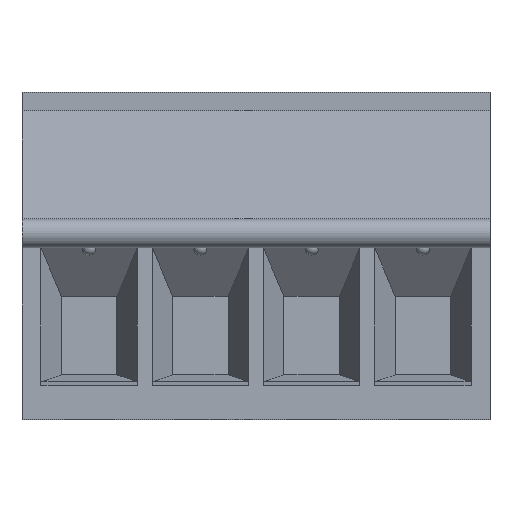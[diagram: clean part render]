
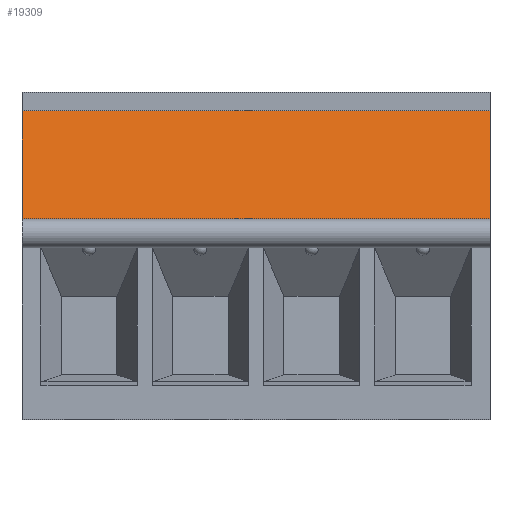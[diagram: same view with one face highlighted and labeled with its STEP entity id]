
A CAD part, top view. The second image highlights one B-rep face of the part: STEP entity #19309.
In plain terms, the highlighted planar face has unit normal (0, 0.249, 0.969).
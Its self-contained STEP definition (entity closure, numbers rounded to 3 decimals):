
#1532 = PLANE('',#1533);
#1533 = AXIS2_PLACEMENT_3D('',#1534,#1535,#1536);
#1534 = CARTESIAN_POINT('',(-16.03,-12.25,-10.621));
#1535 = DIRECTION('',(-1.,0.,0.));
#1536 = DIRECTION('',(0.,0.,1.));
#2030 = PLANE('',#2031);
#2031 = AXIS2_PLACEMENT_3D('',#2032,#2033,#2034);
#2032 = CARTESIAN_POINT('',(0.,-29.45,2.413));
#2033 = DIRECTION('',(1.,0.,0.));
#2034 = DIRECTION('',(0.,0.,-1.));
#6518 = VERTEX_POINT('',#6519);
#6519 = CARTESIAN_POINT('',(-16.03,4.2,-1.6));
#6533 = PLANE('',#6534);
#6534 = AXIS2_PLACEMENT_3D('',#6535,#6536,#6537);
#6535 = CARTESIAN_POINT('',(0.,4.2,-1.6));
#6536 = DIRECTION('',(0.,1.,0.));
#6537 = DIRECTION('',(0.,-0.,1.));
#6545 = EDGE_CURVE('',#6546,#6518,#6548,.T.);
#6546 = VERTEX_POINT('',#6547);
#6547 = CARTESIAN_POINT('',(-16.03,0.5,-0.65));
#6548 = SURFACE_CURVE('',#6549,(#6553,#6560),.PCURVE_S1.);
#6549 = LINE('',#6550,#6551);
#6550 = CARTESIAN_POINT('',(-16.03,0.5,-0.65));
#6551 = VECTOR('',#6552,1.);
#6552 = DIRECTION('',(0.,0.969,-0.249));
#6553 = PCURVE('',#1532,#6554);
#6554 = DEFINITIONAL_REPRESENTATION('',(#6555),#6559);
#6555 = LINE('',#6556,#6557);
#6556 = CARTESIAN_POINT('',(9.971,12.75));
#6557 = VECTOR('',#6558,1.);
#6558 = DIRECTION('',(-0.249,0.969));
#6559 = ( GEOMETRIC_REPRESENTATION_CONTEXT(2) 
PARAMETRIC_REPRESENTATION_CONTEXT() REPRESENTATION_CONTEXT('2D SPACE',''
  ) );
#6560 = PCURVE('',#6561,#6566);
#6561 = PLANE('',#6562);
#6562 = AXIS2_PLACEMENT_3D('',#6563,#6564,#6565);
#6563 = CARTESIAN_POINT('',(0.,0.5,-0.65));
#6564 = DIRECTION('',(0.,-0.249,-0.969));
#6565 = DIRECTION('',(0.,0.969,-0.249));
#6566 = DEFINITIONAL_REPRESENTATION('',(#6567),#6571);
#6567 = LINE('',#6568,#6569);
#6568 = CARTESIAN_POINT('',(0.,-16.03));
#6569 = VECTOR('',#6570,1.);
#6570 = DIRECTION('',(1.,0.));
#6571 = ( GEOMETRIC_REPRESENTATION_CONTEXT(2) 
PARAMETRIC_REPRESENTATION_CONTEXT() REPRESENTATION_CONTEXT('2D SPACE',''
  ) );
#6589 = PLANE('',#6590);
#6590 = AXIS2_PLACEMENT_3D('',#6591,#6592,#6593);
#6591 = CARTESIAN_POINT('',(0.,0.5,0.));
#6592 = DIRECTION('',(0.,-1.,0.));
#6593 = DIRECTION('',(0.,0.,-1.));
#19264 = EDGE_CURVE('',#19265,#6518,#19267,.T.);
#19265 = VERTEX_POINT('',#19266);
#19266 = CARTESIAN_POINT('',(0.,4.2,-1.6));
#19267 = SURFACE_CURVE('',#19268,(#19272,#19279),.PCURVE_S1.);
#19268 = LINE('',#19269,#19270);
#19269 = CARTESIAN_POINT('',(0.,4.2,-1.6));
#19270 = VECTOR('',#19271,1.);
#19271 = DIRECTION('',(-1.,0.,0.));
#19272 = PCURVE('',#6533,#19273);
#19273 = DEFINITIONAL_REPRESENTATION('',(#19274),#19278);
#19274 = LINE('',#19275,#19276);
#19275 = CARTESIAN_POINT('',(0.,0.));
#19276 = VECTOR('',#19277,1.);
#19277 = DIRECTION('',(0.,-1.));
#19278 = ( GEOMETRIC_REPRESENTATION_CONTEXT(2) 
PARAMETRIC_REPRESENTATION_CONTEXT() REPRESENTATION_CONTEXT('2D SPACE',''
  ) );
#19279 = PCURVE('',#6561,#19280);
#19280 = DEFINITIONAL_REPRESENTATION('',(#19281),#19285);
#19281 = LINE('',#19282,#19283);
#19282 = CARTESIAN_POINT('',(3.82,0.));
#19283 = VECTOR('',#19284,1.);
#19284 = DIRECTION('',(0.,-1.));
#19285 = ( GEOMETRIC_REPRESENTATION_CONTEXT(2) 
PARAMETRIC_REPRESENTATION_CONTEXT() REPRESENTATION_CONTEXT('2D SPACE',''
  ) );
#19309 = ADVANCED_FACE('',(#19310),#6561,.F.);
#19310 = FACE_BOUND('',#19311,.F.);
#19311 = EDGE_LOOP('',(#19312,#19335,#19336,#19337));
#19312 = ORIENTED_EDGE('',*,*,#19313,.T.);
#19313 = EDGE_CURVE('',#19314,#6546,#19316,.T.);
#19314 = VERTEX_POINT('',#19315);
#19315 = CARTESIAN_POINT('',(0.,0.5,-0.65));
#19316 = SURFACE_CURVE('',#19317,(#19321,#19328),.PCURVE_S1.);
#19317 = LINE('',#19318,#19319);
#19318 = CARTESIAN_POINT('',(0.,0.5,-0.65));
#19319 = VECTOR('',#19320,1.);
#19320 = DIRECTION('',(-1.,0.,0.));
#19321 = PCURVE('',#6561,#19322);
#19322 = DEFINITIONAL_REPRESENTATION('',(#19323),#19327);
#19323 = LINE('',#19324,#19325);
#19324 = CARTESIAN_POINT('',(0.,0.));
#19325 = VECTOR('',#19326,1.);
#19326 = DIRECTION('',(0.,-1.));
#19327 = ( GEOMETRIC_REPRESENTATION_CONTEXT(2) 
PARAMETRIC_REPRESENTATION_CONTEXT() REPRESENTATION_CONTEXT('2D SPACE',''
  ) );
#19328 = PCURVE('',#6589,#19329);
#19329 = DEFINITIONAL_REPRESENTATION('',(#19330),#19334);
#19330 = LINE('',#19331,#19332);
#19331 = CARTESIAN_POINT('',(0.65,0.));
#19332 = VECTOR('',#19333,1.);
#19333 = DIRECTION('',(0.,-1.));
#19334 = ( GEOMETRIC_REPRESENTATION_CONTEXT(2) 
PARAMETRIC_REPRESENTATION_CONTEXT() REPRESENTATION_CONTEXT('2D SPACE',''
  ) );
#19335 = ORIENTED_EDGE('',*,*,#6545,.T.);
#19336 = ORIENTED_EDGE('',*,*,#19264,.F.);
#19337 = ORIENTED_EDGE('',*,*,#19338,.F.);
#19338 = EDGE_CURVE('',#19314,#19265,#19339,.T.);
#19339 = SURFACE_CURVE('',#19340,(#19344,#19351),.PCURVE_S1.);
#19340 = LINE('',#19341,#19342);
#19341 = CARTESIAN_POINT('',(0.,0.5,-0.65));
#19342 = VECTOR('',#19343,1.);
#19343 = DIRECTION('',(0.,0.969,-0.249));
#19344 = PCURVE('',#6561,#19345);
#19345 = DEFINITIONAL_REPRESENTATION('',(#19346),#19350);
#19346 = LINE('',#19347,#19348);
#19347 = CARTESIAN_POINT('',(0.,0.));
#19348 = VECTOR('',#19349,1.);
#19349 = DIRECTION('',(1.,0.));
#19350 = ( GEOMETRIC_REPRESENTATION_CONTEXT(2) 
PARAMETRIC_REPRESENTATION_CONTEXT() REPRESENTATION_CONTEXT('2D SPACE',''
  ) );
#19351 = PCURVE('',#2030,#19352);
#19352 = DEFINITIONAL_REPRESENTATION('',(#19353),#19357);
#19353 = LINE('',#19354,#19355);
#19354 = CARTESIAN_POINT('',(3.063,29.95));
#19355 = VECTOR('',#19356,1.);
#19356 = DIRECTION('',(0.249,0.969));
#19357 = ( GEOMETRIC_REPRESENTATION_CONTEXT(2) 
PARAMETRIC_REPRESENTATION_CONTEXT() REPRESENTATION_CONTEXT('2D SPACE',''
  ) );
